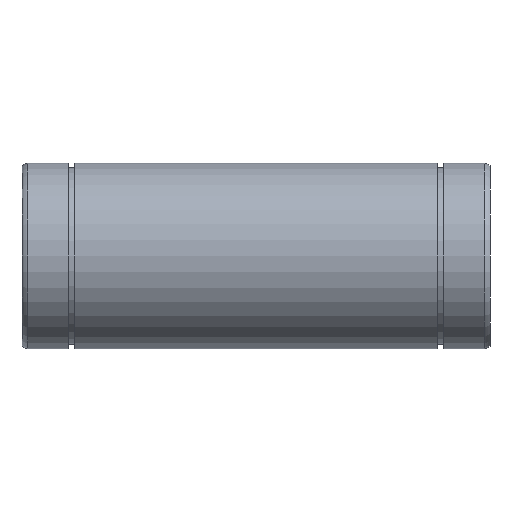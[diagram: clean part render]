
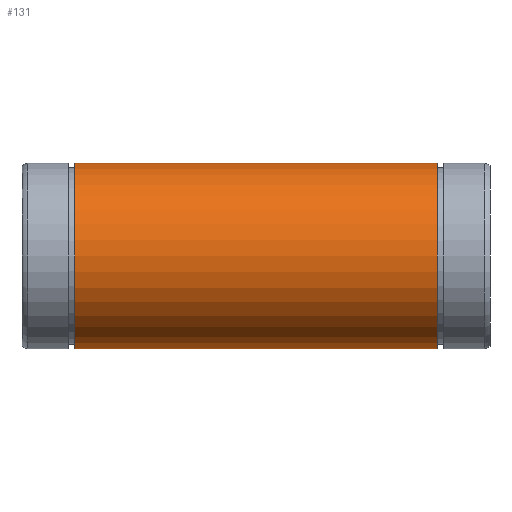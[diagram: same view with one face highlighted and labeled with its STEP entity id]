
A CAD part, front view. The second image highlights one B-rep face of the part: STEP entity #131.
In plain terms, the highlighted cylindrical face has radius 30 mm (diameter 60 mm), a full revolution.
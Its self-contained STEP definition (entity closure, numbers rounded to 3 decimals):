
#97=CARTESIAN_POINT('',(133.9,0.0,30.));
#98=VERTEX_POINT('',#97);
#99=CARTESIAN_POINT('',(133.9,0.0,0.));
#100=DIRECTION('',(-1.0,0.0,0.0));
#101=DIRECTION('',(0.0,0.0,1.0));
#102=AXIS2_PLACEMENT_3D('',#99,#100,#101);
#103=CIRCLE('',#102,30.);
#104=EDGE_CURVE('',#98,#98,#103,.T.);
#112=CARTESIAN_POINT('',(75.5,0.0,0.));
#113=DIRECTION('',(-1.0,0.0,0.0));
#114=DIRECTION('',(0.0,0.0,1.0));
#115=AXIS2_PLACEMENT_3D('',#112,#113,#114);
#116=CYLINDRICAL_SURFACE('',#115,30.);
#117=CARTESIAN_POINT('',(17.1,0.0,30.));
#118=VERTEX_POINT('',#117);
#119=CARTESIAN_POINT('',(17.1,0.0,0.));
#120=DIRECTION('',(-1.0,0.0,0.0));
#121=DIRECTION('',(0.0,0.0,1.0));
#122=AXIS2_PLACEMENT_3D('',#119,#120,#121);
#123=CIRCLE('',#122,30.);
#124=EDGE_CURVE('',#118,#118,#123,.T.);
#125=ORIENTED_EDGE('',*,*,#124,.F.);
#126=EDGE_LOOP('',(#125));
#127=FACE_OUTER_BOUND('',#126,.T.);
#128=ORIENTED_EDGE('',*,*,#104,.T.);
#129=EDGE_LOOP('',(#128));
#130=FACE_BOUND('',#129,.T.);
#131=ADVANCED_FACE('',(#127,#130),#116,.T.);
